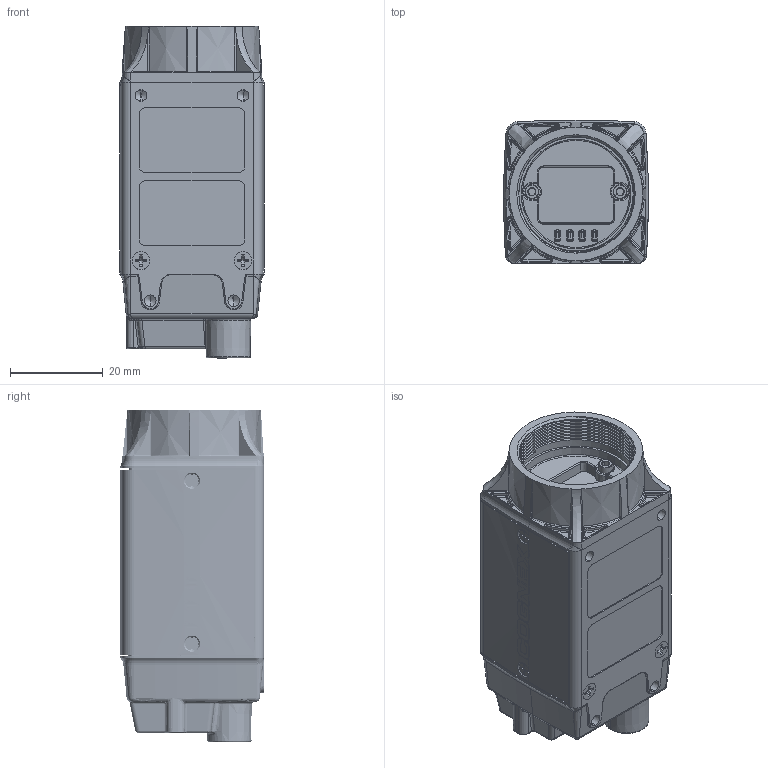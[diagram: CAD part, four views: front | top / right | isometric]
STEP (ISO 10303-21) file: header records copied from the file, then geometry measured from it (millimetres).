
FILE_DESCRIPTION (( 'STEP AP214' ), '1' );
FILE_NAME ('IS010-06_04-03-15.STEP', '2015-04-03T18:38:31', ( '' ), ( '' ), 'SwSTEP 2.0', 'SolidWorks 2014', '' );
FILE_SCHEMA (( 'AUTOMOTIVE_DESIGN' ));
Length unit declared in the file: millimetre
Products named in the file (2): IS010-06_04-03-15
Bounding box: 31.22 x 30.96 x 71.6 mm (x, y, z)
Volume: 46321.8 mm3; surface area: 26136.9 mm2
Topology: 13 solids, 17 shells, 3563 faces, 9144 edges, 5638 vertices
Faces by surface type: cylinder 1273, plane 1188, bspline 548, cone 262, sphere 150, torus 142
Entity records: 140832 total; most frequent: CARTESIAN_POINT 55359, ORIENTED_EDGE 18172, DIRECTION 14672, EDGE_CURVE 9086, VERTEX_POINT 5636, AXIS2_PLACEMENT_3D 5225, VECTOR 4222, LINE 4222
